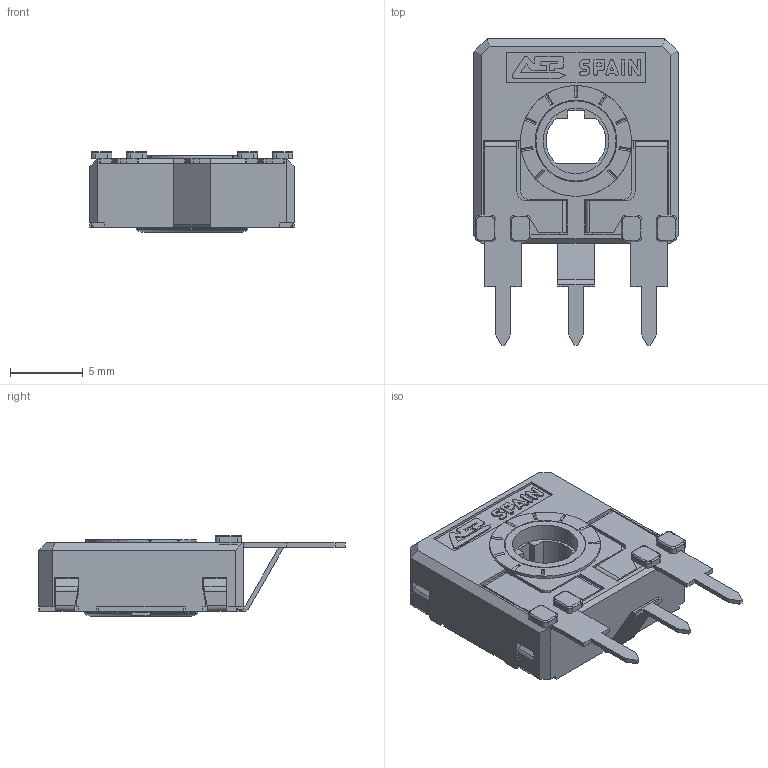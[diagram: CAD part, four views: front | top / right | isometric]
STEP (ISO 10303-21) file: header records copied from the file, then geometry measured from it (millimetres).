
FILE_DESCRIPTION(/* description */ (''),/* implementation_level */ '2;1');
FILE_NAME(/* name */ 'C:\Users\CEM\Desktop\ENVIAR\TRANSICION 3D CATALOGOS\RS14TH0.stp',/* time_stamp */ '2025-12-10T11:30:23+01:00',/* author */ ('CEM'),/* organization */ (''),/* preprocessor_version */ 'ST-DEVELOPER v16.13',/* originating_system */ 'Autodesk Inventor 2018',/* authorisation */ '');
FILE_SCHEMA (('AUTOMOTIVE_DESIGN { 1 0 10303 214 3 1 1 }'));
Length unit declared in the file: millimetre
Products named in the file (1): CARCASA CA14 PGA
Bounding box: 14 x 21 x 5.55 mm (x, y, z)
Volume: 520.9 mm3; surface area: 1450 mm2
Topology: 1 solids, 1 shells, 664 faces, 1866 edges, 1199 vertices
Faces by surface type: plane 492, cylinder 135, torus 23, bspline 8, cone 6
Full cylindrical faces by diameter (mm): 4.5 x1, 5.5 x1, 5.6 x1, 5.752 x1, 6.8 x1, 7.6 x1
Entity records: 21457 total; most frequent: CARTESIAN_POINT 3922, ORIENTED_EDGE 3702, DIRECTION 3491, EDGE_CURVE 1851, LINE 1469, VECTOR 1469, VERTEX_POINT 1194, AXIS2_PLACEMENT_3D 1011
